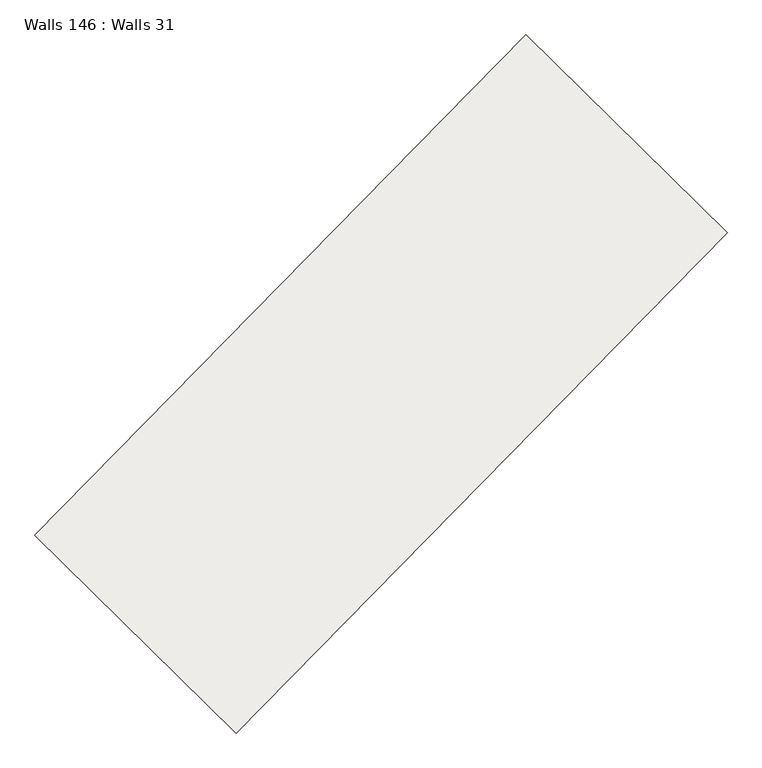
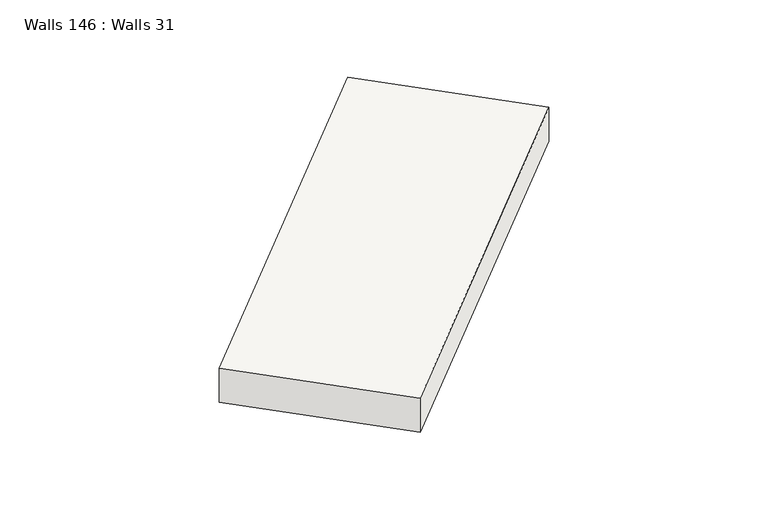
"""IFC4 building model written with IfcOpenShell, lengths in millimetres: slab geometry, Walls 146 : Walls 31."""

from ifc_helpers import new_model, si_unit, frame, origin, place, context, project, spatial, polyline, outline, extrude, source, transform, mapped, element, save


def walls_146_walls_31_dddf052f(model_context):
    return source(origin(), model_context, "Body", "SweptSolid", [
        extrude(outline(polyline([(-350.0, 0.0), (350.0, 0.0), (260.0, -8700.0000005), (-440.0, -8700.0000005), (-350.0, 0.0)])), frame((-195018.03702, -357927.4467447, 635610.0), z_axis=(-0.7136987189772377, 0.7004528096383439, 0.0), x_axis=(0.0, 0.0, 1.0)), (0.0, 0.0, 1.0), 3500.0),
    ])


if __name__ == "__main__":
    model = new_model("IFC4")
    model_context = context("Model", 3, world=origin())
    ifc_project = project(units=[si_unit("LENGTHUNIT", "METRE", prefix="MILLI")], contexts=[model_context])
    site = spatial("IfcSite", under=ifc_project)
    building = spatial("IfcBuilding", under=site)
    placement = place(None, origin())
    walls_146_walls_31_shape = walls_146_walls_31_dddf052f(model_context)
    element("IfcSlab", 1, ObjectType="Walls 146 : Walls 31", at=placement, inside=building, context=model_context, shape_type="MappedRepresentation", body=[
        mapped(walls_146_walls_31_shape, transform((0.0, 0.0, 0.0), x_axis=(1.0, 0.0, 0.0), y_axis=(0.0, 1.0, 0.0), z_axis=(0.0, 0.0, 1.0))),
    ])
    save(model, "model.ifc")
